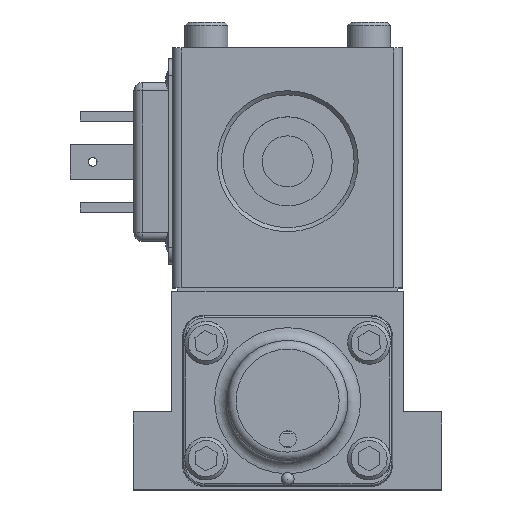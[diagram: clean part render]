
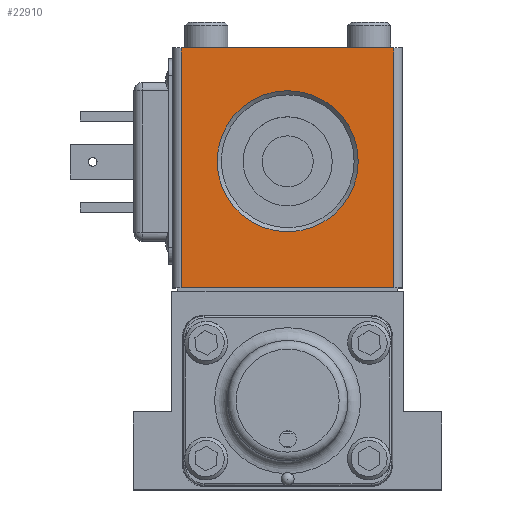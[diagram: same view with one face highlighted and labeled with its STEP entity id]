
A CAD part, top view. The second image highlights one B-rep face of the part: STEP entity #22910.
In plain terms, the highlighted planar face has unit normal (0, 0, 1).
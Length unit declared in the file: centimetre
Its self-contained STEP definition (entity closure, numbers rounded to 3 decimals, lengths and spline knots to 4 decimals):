
#758=FACE_BOUND('',#6491,.T.);
#1794=LINE('',#35956,#3366);
#1795=LINE('',#35958,#3367);
#1796=LINE('',#35960,#3368);
#1797=LINE('',#35961,#3369);
#3366=VECTOR('',#28664,1.);
#3367=VECTOR('',#28665,1.);
#3368=VECTOR('',#28666,1.);
#3369=VECTOR('',#28667,1.);
#5052=FACE_OUTER_BOUND('',#6490,.T.);
#6490=EDGE_LOOP('',(#16254,#16255,#16256,#16257));
#6491=EDGE_LOOP('',(#16258));
#7962=CIRCLE('',#24720,1.3068);
#9515=VERTEX_POINT('',#35954);
#9516=VERTEX_POINT('',#35955);
#9517=VERTEX_POINT('',#35957);
#9518=VERTEX_POINT('',#35959);
#9519=VERTEX_POINT('',#35962);
#12000=EDGE_CURVE('',#9515,#9516,#1794,.T.);
#12001=EDGE_CURVE('',#9515,#9517,#1795,.T.);
#12002=EDGE_CURVE('',#9518,#9517,#1796,.T.);
#12003=EDGE_CURVE('',#9516,#9518,#1797,.T.);
#12004=EDGE_CURVE('',#9519,#9519,#7962,.T.);
#16254=ORIENTED_EDGE('',*,*,#12000,.F.);
#16255=ORIENTED_EDGE('',*,*,#12001,.T.);
#16256=ORIENTED_EDGE('',*,*,#12002,.F.);
#16257=ORIENTED_EDGE('',*,*,#12003,.F.);
#16258=ORIENTED_EDGE('',*,*,#12004,.F.);
#20991=PLANE('',#24719);
#22910=ADVANCED_FACE('',(#5052,#758),#20991,.T.);
#24719=AXIS2_PLACEMENT_3D('',#35953,#28662,#28663);
#24720=AXIS2_PLACEMENT_3D('',#35963,#28668,#28669);
#28662=DIRECTION('center_axis',(0.,0.,
1.));
#28663=DIRECTION('ref_axis',(1.,0.,0.));
#28664=DIRECTION('',(0.,-1.,0.));
#28665=DIRECTION('',(-1.,0.,0.));
#28666=DIRECTION('',(0.,1.,0.));
#28667=DIRECTION('',(-1.,0.,0.));
#28668=DIRECTION('center_axis',(0.,0.,
1.));
#28669=DIRECTION('ref_axis',(-1.,0.,0.));
#35953=CARTESIAN_POINT('Origin',(2.1285,2.0949,2.1273));
#35954=CARTESIAN_POINT('',(1.9698,6.5399,2.1273));
#35955=CARTESIAN_POINT('',(1.9698,2.0949,2.1273));
#35956=CARTESIAN_POINT('',(1.9698,2.0949,2.1273));
#35957=CARTESIAN_POINT('',(-1.9672,6.5399,2.1273));
#35958=CARTESIAN_POINT('',(2.1285,6.5399,2.1273));
#35959=CARTESIAN_POINT('',(-1.9672,2.0949,2.1273));
#35960=CARTESIAN_POINT('',(-1.9672,2.0949,2.1273));
#35961=CARTESIAN_POINT('',(2.1285,2.0949,2.1273));
#35962=CARTESIAN_POINT('',(1.308,4.4418,2.1273));
#35963=CARTESIAN_POINT('Origin',(0.0013,4.4418,2.1273));
